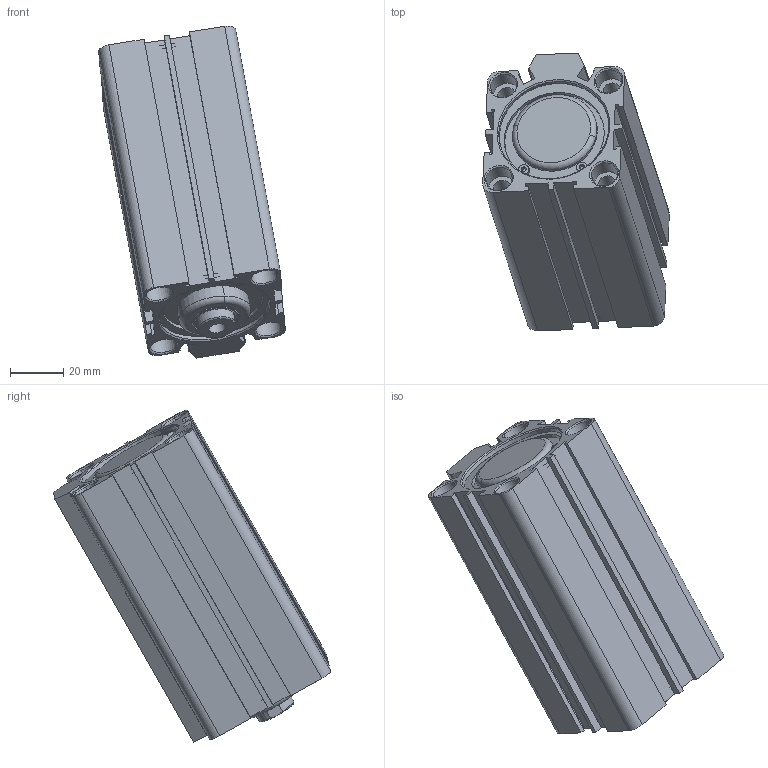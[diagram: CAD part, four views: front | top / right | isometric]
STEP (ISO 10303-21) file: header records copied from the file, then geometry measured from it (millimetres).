
FILE_DESCRIPTION (( 'STEP AP214' ), '1' );
FILE_NAME ('SDA_40_70_WEB.STEP', '2021-01-22T12:16:09', ( 'cagdas' ), ( '' ), 'SwSTEP 2.0', 'SolidWorks 2021', '' );
FILE_SCHEMA (( 'AUTOMOTIVE_DESIGN' ));
Length unit declared in the file: millimetre
Products named in the file (8): SDA40ONKAPAK; SDA40PAPYUZUK; SDA_40_BORU_WEB; SDA_40_70_WEB; SDA40ARKAKAPAK; SDA40SEGMAN; 16_MIL_WEB; SDA40BOGAZKECESI
Assembly tree (8 placements, depth 2):
  SDA_40_70_WEB
    SDA40ARKAKAPAK
    SDA40SEGMAN  x2
    SDA40ONKAPAK
    SDA40PAPYUZUK
    SDA40BOGAZKECESI
    SDA_40_BORU_WEB
    16_MIL_WEB
Bounding box: 69.91 x 104.03 x 124.38 mm (x, y, z)
Volume: 145975.3 mm3; surface area: 71366.2 mm2
Topology: 8 solids, 8 shells, 474 faces, 1175 edges, 758 vertices
Faces by surface type: plane 185, cylinder 128, bspline 85, cone 72, torus 4
Entity records: 19871 total; most frequent: CARTESIAN_POINT 7117, ORIENTED_EDGE 2254, DIRECTION 2025, EDGE_CURVE 1127, VERTEX_POINT 726, AXIS2_PLACEMENT_3D 698, LINE 629, VECTOR 629
